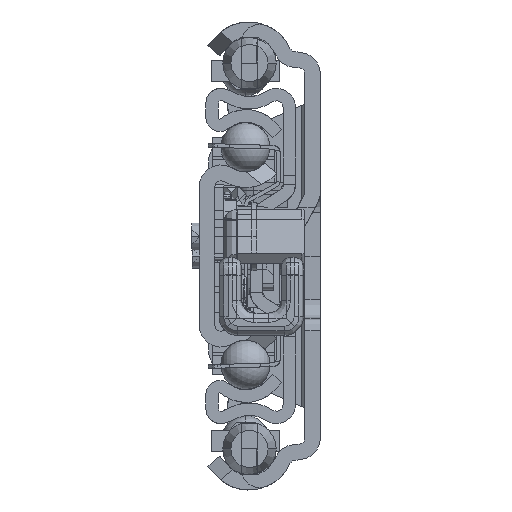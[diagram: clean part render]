
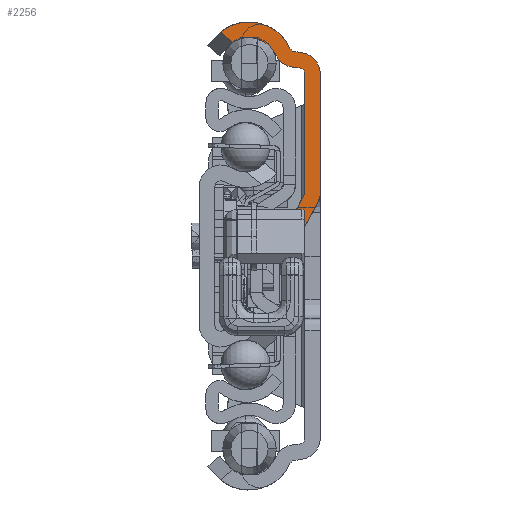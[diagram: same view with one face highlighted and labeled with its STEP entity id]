
A CAD part, left-side view. The second image highlights one B-rep face of the part: STEP entity #2256.
In plain terms, the highlighted planar face has unit normal (-1, 0, 0).
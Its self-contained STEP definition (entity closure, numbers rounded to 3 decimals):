
#1=DIRECTION('',(0.,-0.769,-0.639));
#2=VECTOR('',#1,2.575);
#3=CARTESIAN_POINT('',(0.,16.079,36.021));
#4=LINE('',#3,#2);
#5=CARTESIAN_POINT('',(0.,11.5,30.4));
#6=DIRECTION('',(1.,0.,0.));
#7=DIRECTION('',(0.,0.632,0.775));
#8=AXIS2_PLACEMENT_3D('',#5,#6,#7);
#10=DIRECTION('',(0.,-0.996,-0.087));
#11=VECTOR('',#10,0.904);
#12=CARTESIAN_POINT('',(0.,4.095,32.858));
#13=LINE('',#12,#11);
#14=CARTESIAN_POINT('',(0.,3.5,29.293));
#15=DIRECTION('',(-1.,0.,0.));
#16=DIRECTION('',(0.,-1.,0.));
#17=AXIS2_PLACEMENT_3D('',#14,#15,#16);
#19=CARTESIAN_POINT('',(0.,2.5,9.942));
#20=DIRECTION('',(1.,0.,0.));
#21=DIRECTION('',(0.,-1.,0.));
#22=AXIS2_PLACEMENT_3D('',#19,#20,#21);
#24=DIRECTION('',(0.,-1.,0.));
#25=VECTOR('',#24,2.78);
#26=CARTESIAN_POINT('',(0.,6.177,3.04));
#27=LINE('',#26,#25);
#28=CARTESIAN_POINT('',(0.,0.5,1.099));
#29=DIRECTION('',(-1.,0.,0.));
#30=DIRECTION('',(0.,0.879,0.477));
#31=AXIS2_PLACEMENT_3D('',#28,#29,#30);
#33=DIRECTION('',(0.,0.477,-0.879));
#34=VECTOR('',#33,6.873);
#35=CARTESIAN_POINT('',(0.,2.5,10.));
#36=LINE('',#35,#34);
#37=DIRECTION('',(0.,0.,1.));
#38=VECTOR('',#37,19.293);
#39=CARTESIAN_POINT('',(0.,2.5,10.));
#40=LINE('',#39,#38);
#41=DIRECTION('',(0.,0.996,0.087));
#42=VECTOR('',#41,0.904);
#43=CARTESIAN_POINT('',(0.,3.413,30.289));
#44=LINE('',#43,#42);
#45=CARTESIAN_POINT('',(0.,4.008,33.854));
#46=DIRECTION('',(-1.,0.,0.));
#47=DIRECTION('',(0.,0.908,-0.419));
#48=AXIS2_PLACEMENT_3D('',#45,#46,#47);
#50=CARTESIAN_POINT('',(0.,11.5,30.4));
#51=DIRECTION('',(-1.,0.,0.));
#52=DIRECTION('',(0.,-0.908,0.419));
#53=AXIS2_PLACEMENT_3D('',#50,#51,#52);
#99=CARTESIAN_POINT('',(0.,14.098,34.377));
#147=CARTESIAN_POINT('',(0.,3.5,29.293));
#148=DIRECTION('',(1.,0.,0.));
#149=DIRECTION('',(0.,-0.087,0.996));
#150=AXIS2_PLACEMENT_3D('',#147,#148,#149);
#636=DIRECTION('',(0.,0.,1.));
#637=VECTOR('',#636,19.351);
#638=CARTESIAN_POINT('',(0.,0.,9.942));
#639=LINE('',#638,#637);
#957=CARTESIAN_POINT('',(0.,16.079,36.021));
#1392=CARTESIAN_POINT('',(0.,4.008,33.854));
#1393=DIRECTION('',(1.,0.,0.));
#1394=DIRECTION('',(0.,0.087,-0.996));
#1395=AXIS2_PLACEMENT_3D('',#1392,#1393,#1394);
#1489=CARTESIAN_POINT('',(0.,3.397,3.04));
#1494=DIRECTION('',(0.,-0.477,0.879));
#1495=VECTOR('',#1494,6.495);
#1496=CARTESIAN_POINT('',(0.,3.397,3.04));
#1497=LINE('',#1496,#1495);
#1732=CARTESIAN_POINT('',(0.,3.413,30.289));
#1733=CARTESIAN_POINT('',(0.,2.5,29.293));
#1734=VERTEX_POINT('',#1732);
#1735=VERTEX_POINT('',#1733);
#1736=CARTESIAN_POINT('',(0.,4.095,32.858));
#1737=CARTESIAN_POINT('',(0.,4.916,33.436));
#1738=VERTEX_POINT('',#1736);
#1739=VERTEX_POINT('',#1737);
#1748=CARTESIAN_POINT('',(0.,7.186,32.389));
#1749=CARTESIAN_POINT('',(0.,4.313,30.368));
#1750=VERTEX_POINT('',#1748);
#1751=VERTEX_POINT('',#1749);
#1752=CARTESIAN_POINT('',(0.,0.,29.293));
#1753=CARTESIAN_POINT('',(0.,3.195,32.78));
#1754=VERTEX_POINT('',#1752);
#1755=VERTEX_POINT('',#1753);
#1848=CARTESIAN_POINT('',(0.,2.5,10.));
#1849=VERTEX_POINT('',#1848);
#1908=CARTESIAN_POINT('',(0.,0.,9.942));
#1910=VERTEX_POINT('',#1908);
#1913=CARTESIAN_POINT('',(0.,0.302,8.751));
#1914=VERTEX_POINT('',#1913);
#1917=CARTESIAN_POINT('',(0.,5.775,3.958));
#1918=VERTEX_POINT('',#1917);
#1919=CARTESIAN_POINT('',(0.,6.177,3.04));
#1920=VERTEX_POINT('',#1919);
#1923=VERTEX_POINT('',#1489);
#2175=VERTEX_POINT('',#99);
#2183=VERTEX_POINT('',#957);
#2217=CARTESIAN_POINT('',(0.,0.,0.));
#2218=DIRECTION('',(1.,0.,0.));
#2219=DIRECTION('',(0.,-1.,0.));
#2220=AXIS2_PLACEMENT_3D('',#2217,#2218,#2219);
#2221=PLANE('',#2220);
#2223=ORIENTED_EDGE('',*,*,#2222,.F.);
#2225=ORIENTED_EDGE('',*,*,#2224,.T.);
#2227=ORIENTED_EDGE('',*,*,#2226,.F.);
#2229=ORIENTED_EDGE('',*,*,#2228,.T.);
#2231=ORIENTED_EDGE('',*,*,#2230,.F.);
#2233=ORIENTED_EDGE('',*,*,#2232,.F.);
#2235=ORIENTED_EDGE('',*,*,#2234,.T.);
#2237=ORIENTED_EDGE('',*,*,#2236,.F.);
#2239=ORIENTED_EDGE('',*,*,#2238,.F.);
#2241=ORIENTED_EDGE('',*,*,#2240,.F.);
#2243=ORIENTED_EDGE('',*,*,#2242,.F.);
#2245=ORIENTED_EDGE('',*,*,#2244,.T.);
#2247=ORIENTED_EDGE('',*,*,#2246,.F.);
#2249=ORIENTED_EDGE('',*,*,#2248,.T.);
#2251=ORIENTED_EDGE('',*,*,#2250,.F.);
#2253=ORIENTED_EDGE('',*,*,#2252,.T.);
#2254=EDGE_LOOP('',(#2223,#2225,#2227,#2229,#2231,#2233,#2235,#2237,#2239,#2241,
#2243,#2245,#2247,#2249,#2251,#2253));
#2255=FACE_OUTER_BOUND('',#2254,.F.);
#9=CIRCLE('',#8,7.25);
#18=CIRCLE('',#17,3.5);
#23=CIRCLE('',#22,2.5);
#32=CIRCLE('',#31,6.);
#49=CIRCLE('',#48,3.5);
#54=CIRCLE('',#53,4.75);
#151=CIRCLE('',#150,1.);
#1396=CIRCLE('',#1395,1.);
#2222=EDGE_CURVE('',#2183,#2175,#4,.T.);
#2224=EDGE_CURVE('',#2183,#1739,#9,.T.);
#2226=EDGE_CURVE('',#1738,#1739,#1396,.T.);
#2228=EDGE_CURVE('',#1738,#1755,#13,.T.);
#2230=EDGE_CURVE('',#1754,#1755,#18,.T.);
#2232=EDGE_CURVE('',#1910,#1754,#639,.T.);
#2234=EDGE_CURVE('',#1910,#1914,#23,.T.);
#2236=EDGE_CURVE('',#1923,#1914,#1497,.T.);
#2238=EDGE_CURVE('',#1920,#1923,#27,.T.);
#2240=EDGE_CURVE('',#1918,#1920,#32,.T.);
#2242=EDGE_CURVE('',#1849,#1918,#36,.T.);
#2244=EDGE_CURVE('',#1849,#1735,#40,.T.);
#2246=EDGE_CURVE('',#1734,#1735,#151,.T.);
#2248=EDGE_CURVE('',#1734,#1751,#44,.T.);
#2250=EDGE_CURVE('',#1750,#1751,#49,.T.);
#2252=EDGE_CURVE('',#1750,#2175,#54,.T.);
#2256=ADVANCED_FACE('',(#2255),#2221,.F.);
